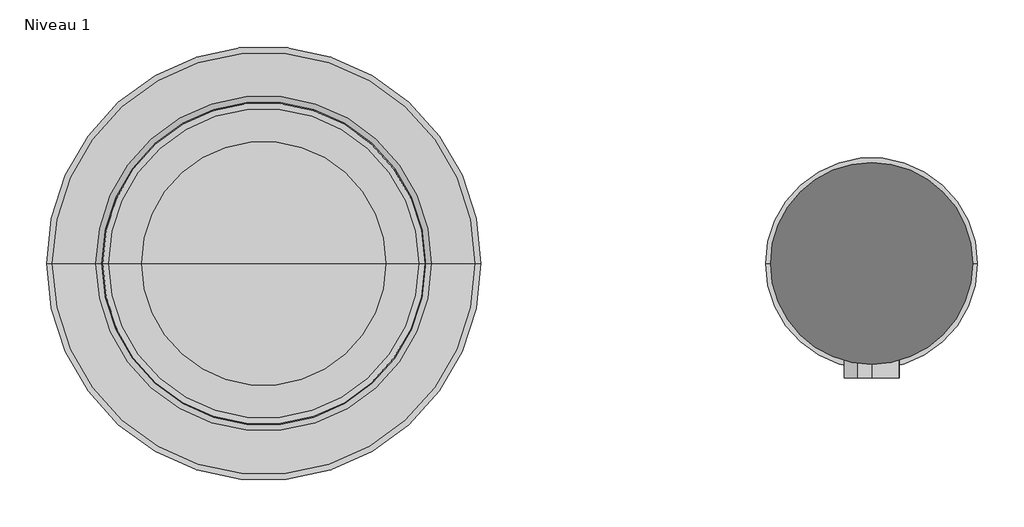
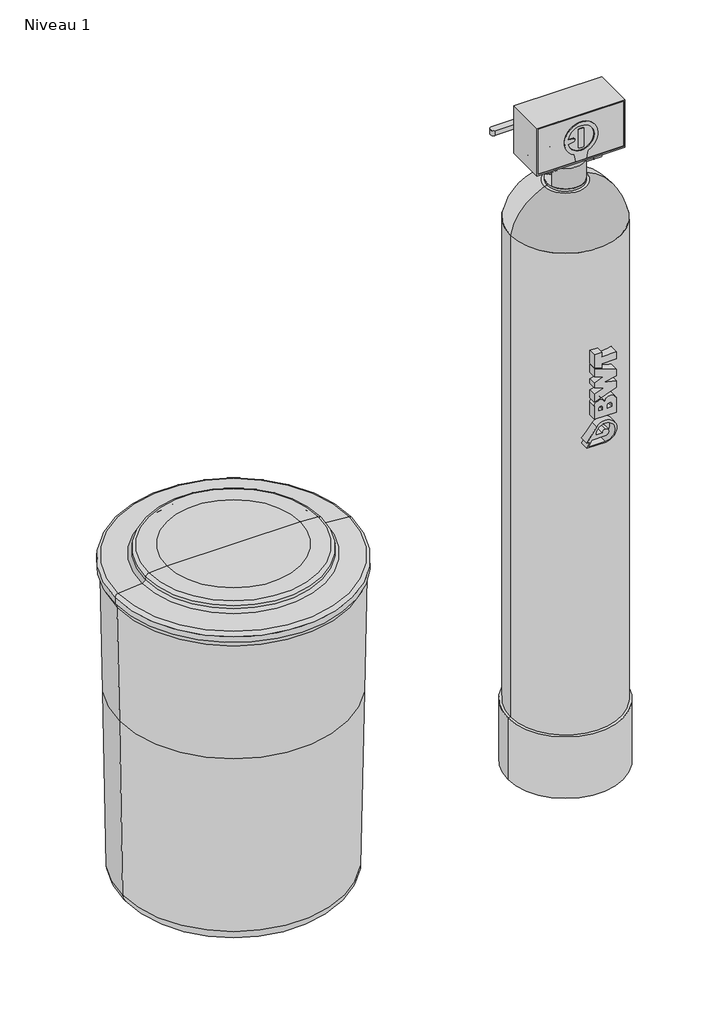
# One storey: 1 flow terminal, 1 proxy.
"""IFC4 building model written with IfcOpenShell, lengths in millimetres."""

from ifc_helpers import new_model, si_unit, origin, place, context, project, spatial, transform, mapped, element, save
from components import proxy_775_x_535_mm_d6c69f12, ec_50_949c9934

model = new_model("IFC4")

# Units and contexts
model_context = context("Model", 3, world=origin())
ifc_project = project(units=[si_unit("LENGTHUNIT", "METRE", prefix="MILLI")], contexts=[model_context])

# Site, building, storey
site = spatial("IfcSite", under=ifc_project)
building = spatial("IfcBuilding", under=site)
storey = spatial("IfcBuildingStorey", under=building, Name="Niveau 1", Elevation=0.0)

# Proxy
placement = place(None, origin())
proxy_775_x_535_mm_shape = proxy_775_x_535_mm_d6c69f12(model_context)
element("IfcBuildingElementProxy", 1, Name="BWT_Bac à sel type 1 : 775 x 535 mm", ObjectType="BWT_Bac à sel type 1 : 775 x 535 mm", at=placement, inside=storey, context=model_context, shape_type="MappedRepresentation", body=[
    mapped(proxy_775_x_535_mm_shape, transform((2063.225645, -7199.1350154, 0.0), x_axis=(1.0, 0.0, 0.0), y_axis=(0.0, 1.0, 0.0), z_axis=(0.0, 0.0, 1.0))),
])

# Flow terminal
ec_50_shape = ec_50_949c9934(model_context)
element("IfcFlowTerminal", 2, ObjectType="BWT_EC : EC 50", at=placement, inside=storey, context=model_context, shape_type="MappedRepresentation", body=[
    mapped(ec_50_shape, transform((2809.3601695, -7199.1350154, 0.0), x_axis=(1.0, 0.0, 0.0), y_axis=(0.0, 1.0, 0.0), z_axis=(0.0, 0.0, 1.0))),
])

save(model, "model.ifc")
